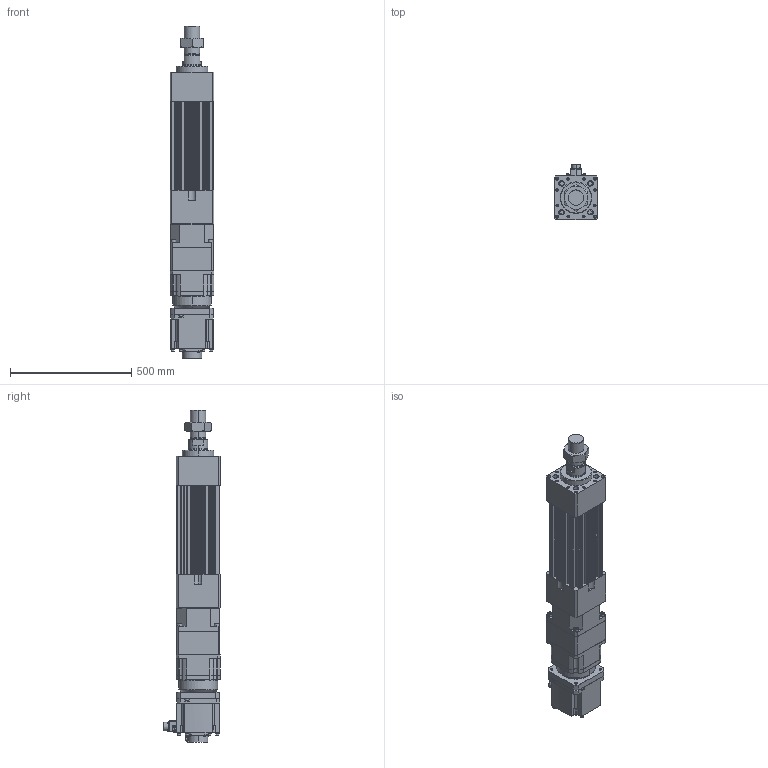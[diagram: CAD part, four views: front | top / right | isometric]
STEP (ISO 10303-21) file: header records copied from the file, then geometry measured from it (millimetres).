
FILE_DESCRIPTION (( 'STEP AP203' ), '1' );
FILE_NAME ('HES180HS-S050-W050G00-M.STEP', '2023-02-01T09:29:17', ( 'tms' ), ( '' ), 'SwSTEP 2.0', 'SolidWorks 2013', '' );
FILE_SCHEMA (( 'CONFIG_CONTROL_DESIGN' ));
Length unit declared in the file: millimetre
Products named in the file (9): P1301600001; HES180HS-S050-W050G00-M; HES180-S050-G180; HES180 ROD M ST050; AB1801; AB180-003[HG-SR702B]; HG-SR502; P0403600401; M64X2.0P
Assembly tree (8 placements, depth 3):
  HES180HS-S050-W050G00-M
    HES180-S050-G180
    HES180 ROD M ST050
    M64X2.0P
    AB180-003[HG-SR702B]
      AB1801
      P1301600001
      P0403600401
    HG-SR502
Bounding box: 180 x 230.85 x 1367 mm (x, y, z)
Volume: 20420586.1 mm3; surface area: 1808923.6 mm2
Topology: 4 solids, 23 shells, 1534 faces, 3945 edges, 2546 vertices
Faces by surface type: cylinder 693, plane 600, cone 174, bspline 63, torus 4
Entity records: 55246 total; most frequent: CARTESIAN_POINT 16431, DIRECTION 8177, ORIENTED_EDGE 7750, EDGE_CURVE 3899, AXIS2_PLACEMENT_3D 3072, VERTEX_POINT 2546, LINE 2033, VECTOR 2033
